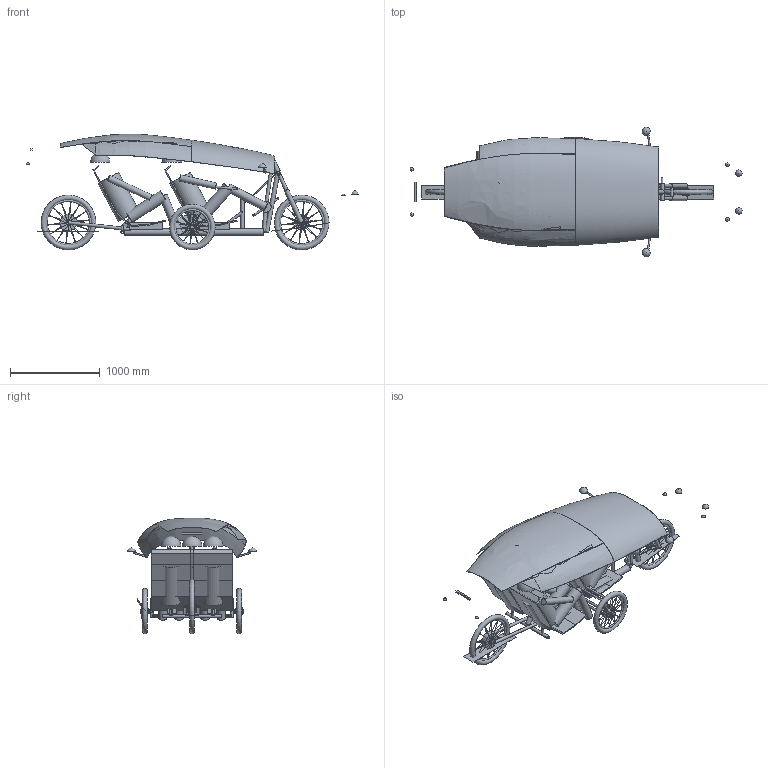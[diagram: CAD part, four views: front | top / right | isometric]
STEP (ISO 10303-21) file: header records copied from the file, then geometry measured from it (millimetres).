
FILE_DESCRIPTION(('Open CASCADE Model'),'2;1');
FILE_NAME('Open CASCADE Shape Model','2026-11-05T13:06:57',('Author'),( 'Open CASCADE'),'Open CASCADE STEP processor 7.9','Open CASCADE 7.9' ,'Unknown');
FILE_SCHEMA(('AUTOMOTIVE_DESIGN { 1 0 10303 214 1 1 1 1 }'));
Length unit declared in the file: millimetre
Products named in the file (48): Aeromovil_Gota_tandem; Carenado; Fuselaje; Luces y retrovisores; Cristales; Parabrisas; Ventanilla izquierda; Ventanilla derecha; Paneles solares; Paneles solares del techo; Chasis; Viga central; Tubo de direccion; Tubo diagonal; Soporte pedalier; Travesano asientos; Soportes asientos; Mastil del manillar; Direccion (manillar); Poste basculante; Suspension; Horquilla delantera 170 mm; Basculante trasero; Amortiguador trasero; Paralelogramo basculante; Ruedas; Rueda delantera; Rueda trasera; Rueda lateral izq; Rueda lateral der; Asientos; Asiento piloto; Asiento trasero izq; Asiento trasero der; Ocupantes; Piloto; Pasajero izq; Pasajero der; Motor; Motor de buje trasero 250 W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
Assembly tree (47 placements, depth 3):
  Aeromovil_Gota_tandem
    Carenado
      Fuselaje
      Luces y retrovisores
    Cristales
      Parabrisas
      Ventanilla izquierda
      Ventanilla derecha
    Paneles solares
      Paneles solares del techo
    Chasis
      Viga central
      Tubo de direccion
      Tubo diagonal
      Soporte pedalier
      Travesano asientos
      Soportes asientos
      Mastil del manillar
      Direccion (manillar)
      Poste basculante
    Suspension
      Horquilla delantera 170 mm
      Basculante trasero
      Amortiguador trasero
      Paralelogramo basculante
    Ruedas
      Rueda delantera
      Rueda trasera
      Rueda lateral izq
      Rueda lateral der
    Asientos
      Asiento piloto
      Asiento trasero izq
      Asiento trasero der
    Ocupantes
      Piloto
      Pasajero izq
      Pasajero der
    Motor
      Motor de buje trasero 250 W
      Generador de pedalier
      Bielas y pedales
      Controlador
    Baterias
      Bateria 1 (36 V 500 Wh)
      Bateria 2 (36 V 500 Wh)
      Bateria 3 (36 V 500 Wh)
      Bateria 4 (36 V 500 Wh)
Bounding box: 3701 x 1444.35 x 1291.06 mm (x, y, z)
Volume: 205415862.5 mm3; surface area: 19918389.6 mm2
Topology: 217 solids, 225 shells, 725 faces, 971 edges, 661 vertices
Faces by surface type: plane 473, cylinder 225, sphere 11, bspline 8, torus 8
Full cylindrical faces by diameter (mm): 2 x112, 12 x2, 15 x1, 16 x5, 18.6 x3, 20 x7, 21 x7, 22.2 x3, 25 x7, 26 x5, 28 x2, 30 x5, 31 x5, 32 x5, 35 x5, 36 x5, 40 x3, 41 x1, 44 x4, 45 x1, 46 x3, 50 x3, 51 x1, 55 x1, 70 x6, 70.2 x1, 76.2 x1, 90 x6, 120 x1, 130 x6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
Entity records: 118733 total; most frequent: CARTESIAN_POINT 93666, DIRECTION 4767, ORIENTED_EDGE 1871, PCURVE 1871, DEFINITIONAL_REPRESENTATION 1871, LINE 1800, VECTOR 1800, AXIS2_PLACEMENT_3D 1253
